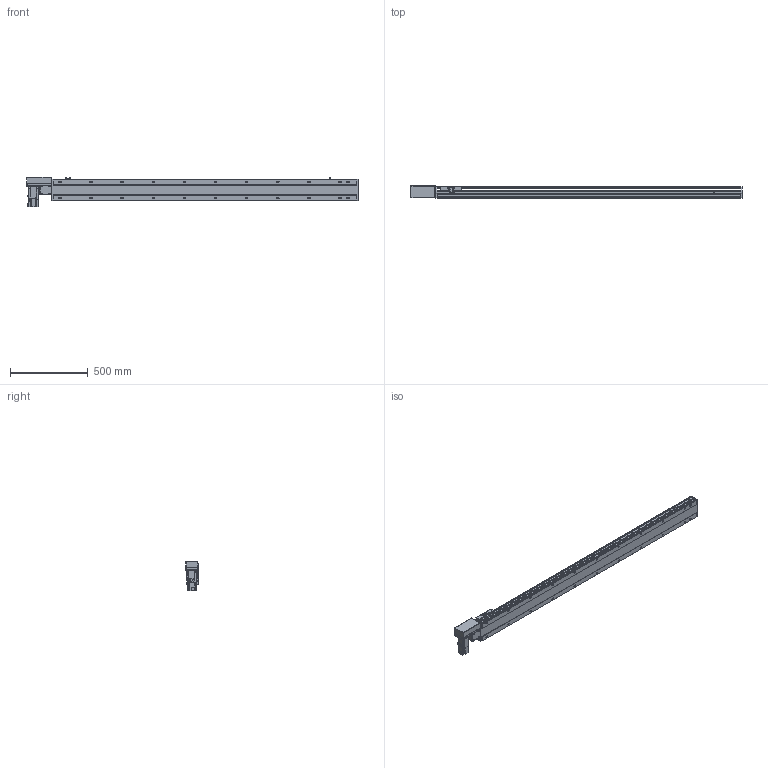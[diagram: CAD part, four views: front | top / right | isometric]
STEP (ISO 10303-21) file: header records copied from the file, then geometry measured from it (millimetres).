
FILE_DESCRIPTION( ( 'STEP AP214' ), '1' );
FILE_NAME( 'x:/temp/worker_27/temp/exporttempdir_6708_377_8DYWm/format_0/PBS140-P40-S1700-R-T40-C1-N(0).stp', '2022-06-06T01:28:56', ( 'License CC BY-ND 4.0' ), ( 'CADENAS' ), ' ', 'PARTsolutions', ' ' );
FILE_SCHEMA( ( 'AUTOMOTIVE_DESIGN { 1 0 10303 214 1 1 1 1 }' ) );
Length unit declared in the file: millimetre
Products named in the file (7): PBS140-P40-S1700-R-T40-C1-N(0); _PBS140-S1700()_body; _PBS140T-R_motors; _T40-p1; _PBS140_sliser; _PBS140_plant; _PBS140_sensor
Assembly tree (8 placements, depth 2):
  PBS140-P40-S1700-R-T40-C1-N(0)
    _PBS140-S1700()_body
    _PBS140T-R_motors
    _T40-p1
    _PBS140_sliser
    _PBS140_plant
    _PBS140_sensor  x3
Bounding box: 2133 x 80.5 x 189.7 mm (x, y, z)
Volume: 9445526.6 mm3; surface area: 1625841.8 mm2
Topology: 8 solids, 8 shells, 1123 faces, 2956 edges, 1931 vertices
Faces by surface type: plane 710, cylinder 355, cone 48, sphere 8, torus 2
Full cylindrical faces by diameter (mm): 3.242 x4, 4 x2, 4.134 x4, 4.4 x8, 4.5 x2, 4.8 x4, 4.917 x30, 5.5 x7, 6 x2, 7 x24, 7.5 x8, 8 x12, 8.5 x4, 10.5 x22, 14 x1, 30 x2, 50 x2
Entity records: 41215 total; most frequent: CARTESIAN_POINT 6755, DIRECTION 5407, ORIENTED_EDGE 5092, EDGE_CURVE 2546, AXIS2_PLACEMENT_3D 1897, VERTEX_POINT 1773, LINE 1613, VECTOR 1613
